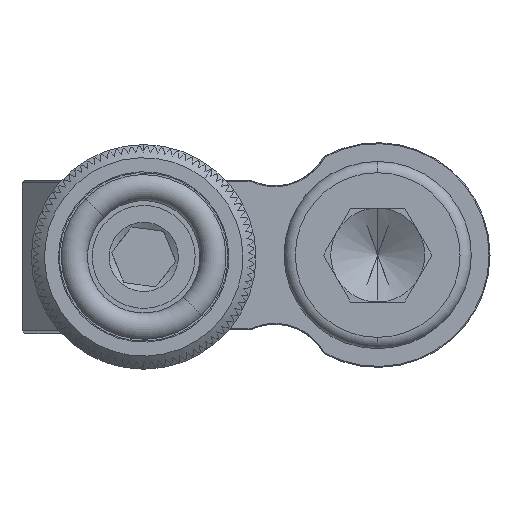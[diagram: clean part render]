
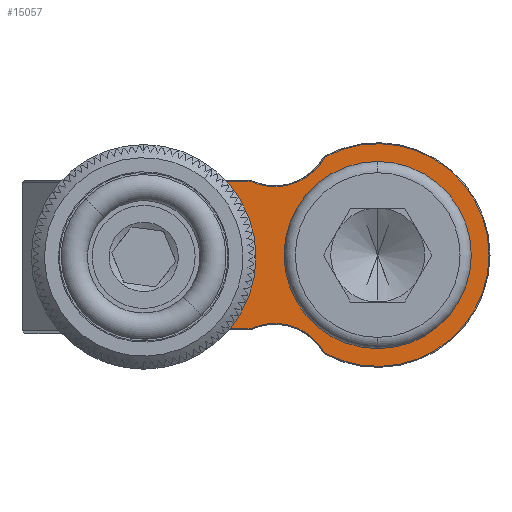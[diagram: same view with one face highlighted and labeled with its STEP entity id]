
A CAD part, front view. The second image highlights one B-rep face of the part: STEP entity #15057.
In plain terms, the highlighted planar face has unit normal (0, -1, 0) as drawn and (-1, 0, 0) by its records, which use the part's own axes.
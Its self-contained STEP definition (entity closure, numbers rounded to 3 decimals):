
#387 = VERTEX_POINT ( 'NONE', #6880 ) ;
#544 = CARTESIAN_POINT ( 'NONE',  ( 2., 0., 0. ) ) ;
#783 = ORIENTED_EDGE ( 'NONE', *, *, #13782, .T. ) ;
#856 = EDGE_CURVE ( 'NONE', #16154, #9408, #2028, .T. ) ;
#947 = CARTESIAN_POINT ( 'NONE',  ( 2., -3.95, 6.819 ) ) ;
#1088 = EDGE_LOOP ( 'NONE', ( #12595, #9386 ) ) ;
#1207 = CIRCLE ( 'NONE', #12422, 5.95 ) ;
#1282 = LINE ( 'NONE', #7848, #13576 ) ;
#1686 = CARTESIAN_POINT ( 'NONE',  ( 2., 0., -5.95 ) ) ;
#2028 = CIRCLE ( 'NONE', #15661, 5.95 ) ;
#2159 = CIRCLE ( 'NONE', #10726, 3.05 ) ;
#2454 = VERTEX_POINT ( 'NONE', #947 ) ;
#2519 = CARTESIAN_POINT ( 'NONE',  ( 2., 0., 0. ) ) ;
#2621 = EDGE_CURVE ( 'NONE', #15394, #16154, #1207, .T. ) ;
#2906 = CARTESIAN_POINT ( 'NONE',  ( 2., 0., 0. ) ) ;
#2984 = AXIS2_PLACEMENT_3D ( 'NONE', #13736, #3796, #3846 ) ;
#3171 = EDGE_CURVE ( 'NONE', #2454, #6760, #1282, .T. ) ;
#3333 = VERTEX_POINT ( 'NONE', #13178 ) ;
#3708 = VERTEX_POINT ( 'NONE', #6591 ) ;
#3796 = DIRECTION ( 'NONE',  ( 1., 0., 0. ) ) ;
#3826 = CARTESIAN_POINT ( 'NONE',  ( 2., 3.95, 10.2 ) ) ;
#3846 = DIRECTION ( 'NONE',  ( 0., 0., -1. ) ) ;
#4337 = VECTOR ( 'NONE', #11467, 1000. ) ;
#4413 = ORIENTED_EDGE ( 'NONE', *, *, #2621, .T. ) ;
#4910 = CIRCLE ( 'NONE', #15436, 3.9 ) ;
#4957 = CARTESIAN_POINT ( 'NONE',  ( 2., 0., 0. ) ) ;
#4993 = DIRECTION ( 'NONE',  ( 0., 1., 0. ) ) ;
#4999 = EDGE_CURVE ( 'NONE', #3333, #387, #7639, .T. ) ;
#5065 = CIRCLE ( 'NONE', #8192, 3.9 ) ;
#5232 = DIRECTION ( 'NONE',  ( 1., 0., 0. ) ) ;
#5293 = DIRECTION ( 'NONE',  ( 1., 0., 0. ) ) ;
#5512 = DIRECTION ( 'NONE',  ( 0., 0., 1. ) ) ;
#5598 = VERTEX_POINT ( 'NONE', #11499 ) ;
#6316 = CARTESIAN_POINT ( 'NONE',  ( 2., 6.7, 5.5 ) ) ;
#6449 = EDGE_CURVE ( 'NONE', #5598, #3708, #4910, .T. ) ;
#6591 = CARTESIAN_POINT ( 'NONE',  ( 2., 0., -3.9 ) ) ;
#6760 = VERTEX_POINT ( 'NONE', #12703 ) ;
#6880 = CARTESIAN_POINT ( 'NONE',  ( 2., 3.95, 6.819 ) ) ;
#7343 = CARTESIAN_POINT ( 'NONE',  ( 2., 5.237, 2.824 ) ) ;
#7410 = DIRECTION ( 'NONE',  ( 1., 0., 0. ) ) ;
#7602 = AXIS2_PLACEMENT_3D ( 'NONE', #11800, #5293, #14054 ) ;
#7639 = LINE ( 'NONE', #3826, #4337 ) ;
#7848 = CARTESIAN_POINT ( 'NONE',  ( 2., -3.95, 10.2 ) ) ;
#7981 = ORIENTED_EDGE ( 'NONE', *, *, #4999, .T. ) ;
#8107 = EDGE_CURVE ( 'NONE', #9408, #2454, #10963, .T. ) ;
#8192 = AXIS2_PLACEMENT_3D ( 'NONE', #2519, #7410, #14934 ) ;
#8255 = FACE_OUTER_BOUND ( 'NONE', #11311, .T. ) ;
#8288 = LINE ( 'NONE', #11330, #8666 ) ;
#8547 = EDGE_CURVE ( 'NONE', #3708, #5598, #5065, .T. ) ;
#8666 = VECTOR ( 'NONE', #4993, 1000. ) ;
#8672 = EDGE_CURVE ( 'NONE', #387, #15394, #2159, .T. ) ;
#9028 = ORIENTED_EDGE ( 'NONE', *, *, #8672, .T. ) ;
#9033 = FACE_BOUND ( 'NONE', #1088, .T. ) ;
#9386 = ORIENTED_EDGE ( 'NONE', *, *, #8547, .T. ) ;
#9408 = VERTEX_POINT ( 'NONE', #13073 ) ;
#9753 = DIRECTION ( 'NONE',  ( 0., 0., -1. ) ) ;
#10126 = ORIENTED_EDGE ( 'NONE', *, *, #856, .T. ) ;
#10157 = PLANE ( 'NONE',  #7602 ) ;
#10580 = DIRECTION ( 'NONE',  ( 1., 0., 0. ) ) ;
#10624 = ORIENTED_EDGE ( 'NONE', *, *, #3171, .T. ) ;
#10726 = AXIS2_PLACEMENT_3D ( 'NONE', #6316, #5232, #14052 ) ;
#10963 = CIRCLE ( 'NONE', #2984, 3.05 ) ;
#11311 = EDGE_LOOP ( 'NONE', ( #7981, #9028, #4413, #10126, #15621, #10624, #783 ) ) ;
#11330 = CARTESIAN_POINT ( 'NONE',  ( 2., 4., 8.893 ) ) ;
#11467 = DIRECTION ( 'NONE',  ( 0., 0., -1. ) ) ;
#11499 = CARTESIAN_POINT ( 'NONE',  ( 2., 0., 3.9 ) ) ;
#11695 = DIRECTION ( 'NONE',  ( -1., 0., 0. ) ) ;
#11800 = CARTESIAN_POINT ( 'NONE',  ( 2., -4., 10.2 ) ) ;
#12422 = AXIS2_PLACEMENT_3D ( 'NONE', #4957, #14812, #9753 ) ;
#12595 = ORIENTED_EDGE ( 'NONE', *, *, #6449, .T. ) ;
#12703 = CARTESIAN_POINT ( 'NONE',  ( 2., -3.95, 8.893 ) ) ;
#13073 = CARTESIAN_POINT ( 'NONE',  ( 2., -5.237, 2.824 ) ) ;
#13178 = CARTESIAN_POINT ( 'NONE',  ( 2., 3.95, 8.893 ) ) ;
#13576 = VECTOR ( 'NONE', #5512, 1000. ) ;
#13736 = CARTESIAN_POINT ( 'NONE',  ( 2., -6.7, 5.5 ) ) ;
#13782 = EDGE_CURVE ( 'NONE', #6760, #3333, #8288, .T. ) ;
#14052 = DIRECTION ( 'NONE',  ( 0., 0., -1. ) ) ;
#14054 = DIRECTION ( 'NONE',  ( 0., 0., -1. ) ) ;
#14168 = DIRECTION ( 'NONE',  ( 0., 0., -1. ) ) ;
#14297 = DIRECTION ( 'NONE',  ( 0., 0., -1. ) ) ;
#14812 = DIRECTION ( 'NONE',  ( -1., 0., 0. ) ) ;
#14934 = DIRECTION ( 'NONE',  ( 0., 0., -1. ) ) ;
#15057 = ADVANCED_FACE ( 'NONE', ( #9033, #8255 ), #10157, .F. ) ;
#15394 = VERTEX_POINT ( 'NONE', #7343 ) ;
#15436 = AXIS2_PLACEMENT_3D ( 'NONE', #544, #10580, #14297 ) ;
#15621 = ORIENTED_EDGE ( 'NONE', *, *, #8107, .T. ) ;
#15661 = AXIS2_PLACEMENT_3D ( 'NONE', #2906, #11695, #14168 ) ;
#16154 = VERTEX_POINT ( 'NONE', #1686 ) ;
